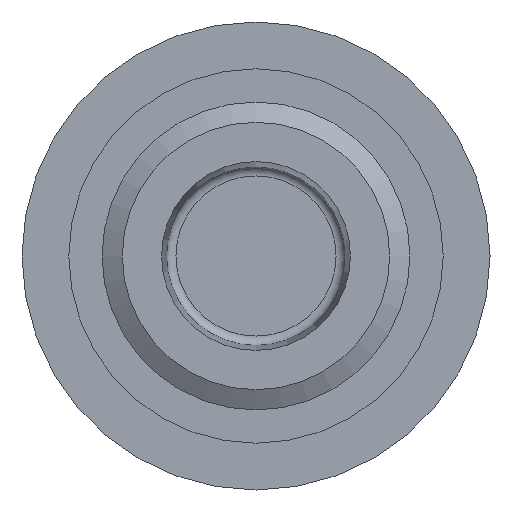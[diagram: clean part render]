
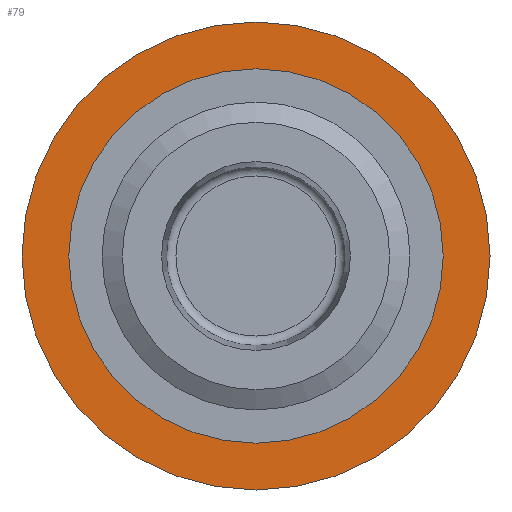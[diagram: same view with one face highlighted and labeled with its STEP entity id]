
A CAD part, front view. The second image highlights one B-rep face of the part: STEP entity #79.
In plain terms, the highlighted planar face has unit normal (0, -1, 0).
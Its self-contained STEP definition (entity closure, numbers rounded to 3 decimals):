
#79 = ADVANCED_FACE( '', ( #108, #109 ), #110, .F. );
#108 = FACE_BOUND( '', #166, .T. );
#109 = FACE_OUTER_BOUND( '', #167, .T. );
#110 = PLANE( '', #168 );
#166 = EDGE_LOOP( '', ( #235 ) );
#167 = EDGE_LOOP( '', ( #236 ) );
#168 = AXIS2_PLACEMENT_3D( '', #237, #238, #239 );
#235 = ORIENTED_EDGE( '', *, *, #352, .F. );
#236 = ORIENTED_EDGE( '', *, *, #350, .T. );
#237 = CARTESIAN_POINT( '', ( 10., 6., 0. ) );
#238 = DIRECTION( '', ( 0., 1., 0. ) );
#239 = DIRECTION( '', ( 0., 0., 1. ) );
#350 = EDGE_CURVE( '', #388, #388, #389, .T. );
#352 = EDGE_CURVE( '', #392, #392, #393, .T. );
#388 = VERTEX_POINT( '', #450 );
#389 = CIRCLE( '', #451, 10. );
#392 = VERTEX_POINT( '', #454 );
#393 = CIRCLE( '', #455, 8. );
#450 = CARTESIAN_POINT( '', ( 0., 6., -10. ) );
#451 = AXIS2_PLACEMENT_3D( '', #520, #521, #522 );
#454 = CARTESIAN_POINT( '', ( 0., 6., -8. ) );
#455 = AXIS2_PLACEMENT_3D( '', #526, #527, #528 );
#520 = CARTESIAN_POINT( '', ( 0., 6., 0. ) );
#521 = DIRECTION( '', ( 0., -1., 0. ) );
#522 = DIRECTION( '', ( 0., 0., -1. ) );
#526 = CARTESIAN_POINT( '', ( 0., 6., 0. ) );
#527 = DIRECTION( '', ( 0., -1., 0. ) );
#528 = DIRECTION( '', ( 0., 0., -1. ) );
